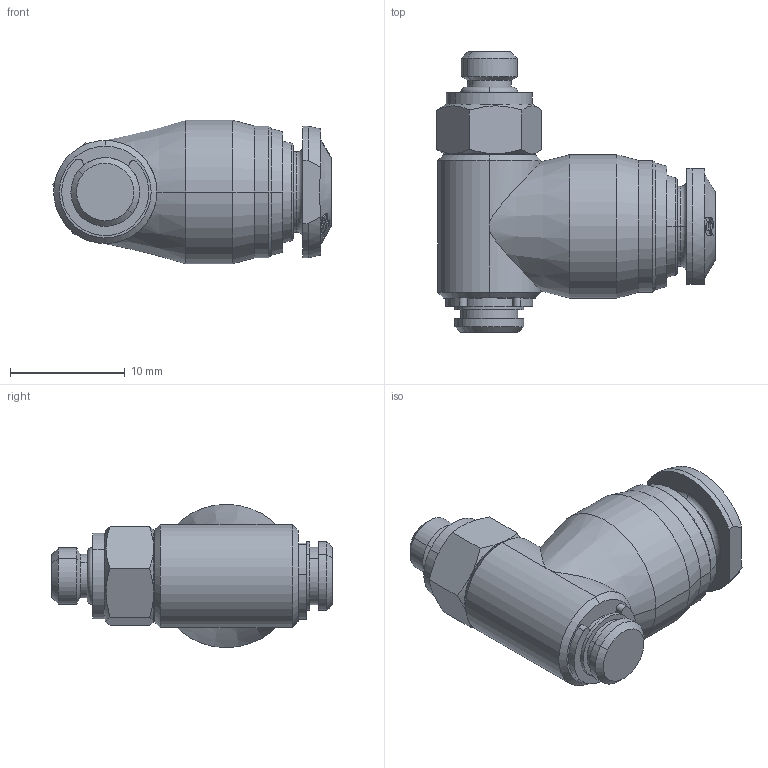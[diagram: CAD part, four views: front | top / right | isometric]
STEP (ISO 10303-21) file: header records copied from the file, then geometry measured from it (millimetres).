
FILE_DESCRIPTION (( 'STEP AP214' ), '1' );
FILE_NAME ('5055000012.step', '2012-10-01T16:58:40', ( '' ), ( '' ), 'SwSTEP 2.0', 'SolidWorks 2012', '' );
FILE_SCHEMA (( 'AUTOMOTIVE_DESIGN' ));
Length unit declared in the file: millimetre
Products named in the file (1): 5055000012
Bounding box: 24.28 x 24.5 x 12.5 mm (x, y, z)
Volume: 2619.3 mm3; surface area: 1902.7 mm2
Topology: 1 solids, 4 shells, 314 faces, 773 edges, 492 vertices
Faces by surface type: bspline 126, cone 72, cylinder 58, plane 38, torus 20
Entity records: 19405 total; most frequent: CARTESIAN_POINT 9548, ORIENTED_EDGE 1546, DIRECTION 931, EDGE_CURVE 773, VERTEX_POINT 492, B_SPLINE_CURVE_WITH_KNOTS 428, AXIS2_PLACEMENT_3D 397, EDGE_LOOP 341
